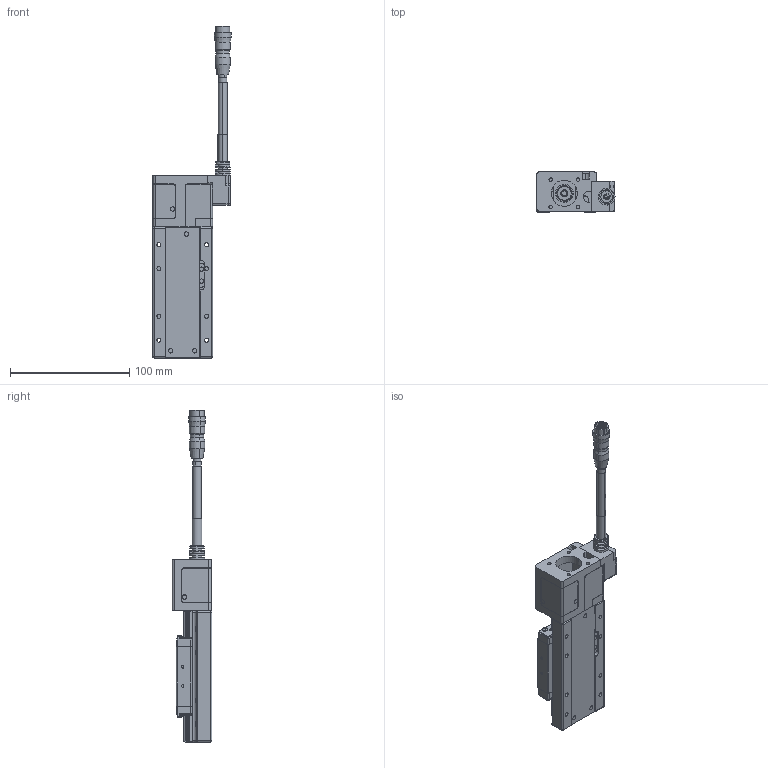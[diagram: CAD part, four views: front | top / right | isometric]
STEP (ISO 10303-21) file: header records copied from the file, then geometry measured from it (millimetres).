
FILE_DESCRIPTION (( 'STEP AP203' ), '1' );
FILE_NAME ('CXN5030-S2?N(42框無馬達).', '2024-01-05T02:11:58', ( '' ), ( '' ), 'SwSTEP 2.0', 'SolidWorks 2019', '' );
FILE_SCHEMA (( 'CONFIG_CONTROL_DESIGN' ));
Length unit declared in the file: millimetre
Products named in the file (5): CXN5030-S2?N(42框無馬達); CXN5030-01-1^CXN5030-S2?N(42框無馬達)_defeature_GMT; Group2^CXN5030-S2?N(42框無馬達)_defeature_GMT; Group1^CXN5030-S2?N(42框無馬達)_defeature_GMT; HR10A-10J-12P_帶線示意
Assembly tree (4 placements, depth 2):
  CXN5030-S2?N(42框無馬達)
    Group1^CXN5030-S2?N(42框無馬達)_defeature_GMT
    Group2^CXN5030-S2?N(42框無馬達)_defeature_GMT
    CXN5030-01-1^CXN5030-S2?N(42框無馬達)_defeature_GMT
    HR10A-10J-12P_帶線示意
Bounding box: 65.49 x 33.5 x 278.5 mm (x, y, z)
Volume: 35276.7 mm3; surface area: 86453.9 mm2
Topology: 13 solids, 59 shells, 3996 faces, 10221 edges, 6192 vertices
Faces by surface type: plane 1280, cylinder 1241, cone 738, torus 349, bspline 206, sphere 182
Entity records: 125737 total; most frequent: CARTESIAN_POINT 29333, DIRECTION 21115, ORIENTED_EDGE 19794, EDGE_CURVE 9897, AXIS2_PLACEMENT_3D 8143, VERTEX_POINT 6095, LINE 4829, VECTOR 4829
